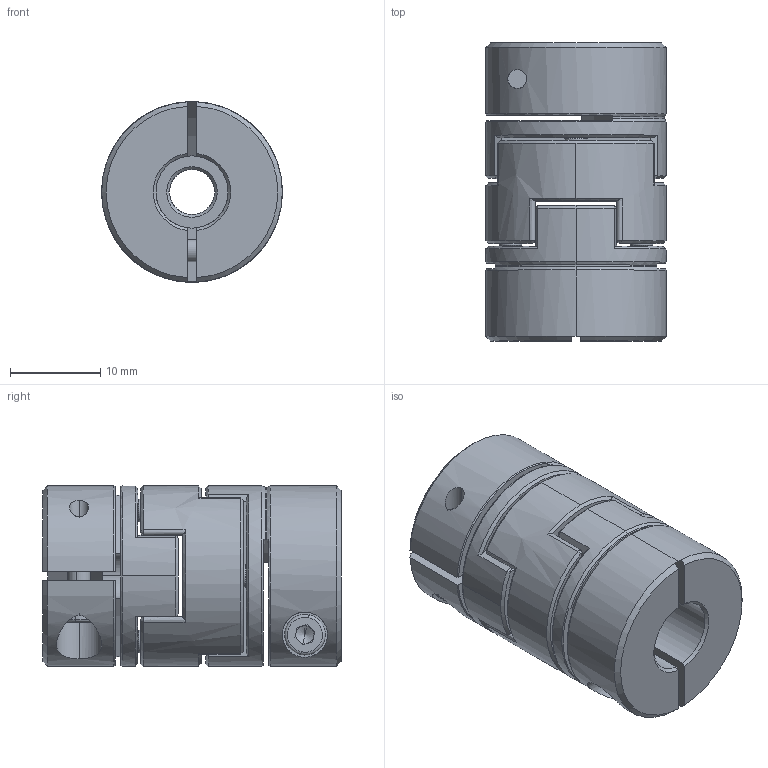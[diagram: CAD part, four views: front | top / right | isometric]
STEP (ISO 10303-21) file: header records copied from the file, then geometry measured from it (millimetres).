
FILE_DESCRIPTION (( 'STEP AP203' ), '1' );
FILE_NAME ('LZ-B-D20L33-5-8.STEP', '2021-10-29T05:36:45', ( '' ), ( '' ), 'SwSTEP 2.0', 'SolidWorks 2018', '' );
FILE_SCHEMA (( 'CONFIG_CONTROL_DESIGN' ));
Length unit declared in the file: millimetre
Products named in the file (1): LZ-B-D20L33-5-8
Bounding box: 20 x 33 x 20 mm (x, y, z)
Volume: 8378.8 mm3; surface area: 6100.4 mm2
Topology: 3 solids, 3 shells, 249 faces, 638 edges, 404 vertices
Faces by surface type: plane 113, cylinder 64, cone 42, bspline 26, torus 4
Entity records: 10323 total; most frequent: CARTESIAN_POINT 4472, ORIENTED_EDGE 1268, DIRECTION 1124, EDGE_CURVE 634, AXIS2_PLACEMENT_3D 434, VERTEX_POINT 404, EDGE_LOOP 276, VECTOR 256
